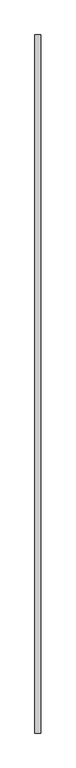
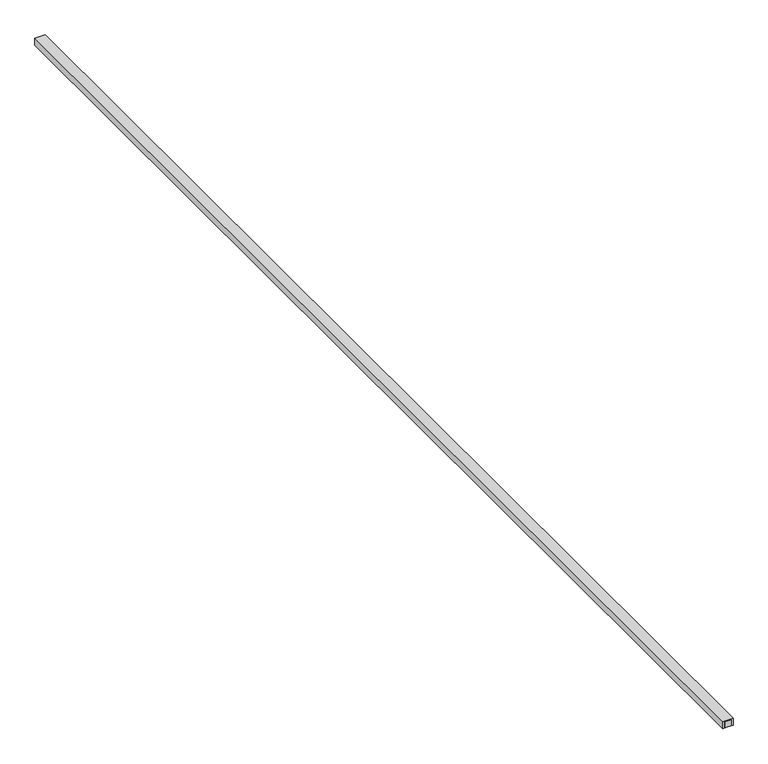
"""IFC4 building model written with IfcOpenShell, lengths in millimetres: proxy geometry, HAFELE^BUS BAR LIGHT_ALUMINUM EXTRUSION-LIGHT BAR (MOD LENGTH 78)."""

from ifc_helpers import new_model, si_unit, frame, origin, origin_with_axes, place, context, project, spatial, polyline, outline, extrude, source, transform, mapped, element, save


def generic_models_cd152bde(model_context):
    return source(origin(), model_context, "Body", "SweptSolid", [
        extrude(outline(polyline([(13.9, 1943.1), (13.9, 38.1), (3.1, 38.1), (3.1, 1943.1), (13.9, 1943.1)])), frame((0.0, 0.0, -0.05), z_axis=(0.0, 0.0, 1.0), x_axis=(1.0, 0.0, 0.0)), (0.0, 0.0, 1.0), 1.05),
        extrude(outline(polyline([(14.0, 0.0), (3.0, 0.0), (3.0, 38.1), (14.0, 38.1), (14.0, 0.0)])), origin_with_axes(), (0.0, 0.0, 1.0), 11.0),
        extrude(outline(polyline([(0.0, 13.0), (0.0, 17.0), (12.0, 17.0), (12.0, 0.0), (0.0, 0.0), (0.0, 4.0), (2.0, 4.0), (2.0, 3.0), (11.0, 3.0), (11.0, 14.0), (2.0, 14.0), (2.0, 13.0), (0.0, 13.0)])), frame((0.0, 0.0, 0.0), z_axis=(0.0, 1.0, 0.0), x_axis=(0.0, 0.0, 1.0)), (0.0, 0.0, 1.0), 1981.2),
        extrude(outline(polyline([(3.0, 1981.2), (14.0, 1981.2), (14.0, 1943.1), (3.0, 1943.1), (3.0, 1981.2)])), origin_with_axes(), (0.0, 0.0, 1.0), 11.0),
    ])


if __name__ == "__main__":
    model = new_model("IFC4")
    model_context = context("Model", 3, world=origin())
    ifc_project = project(units=[si_unit("LENGTHUNIT", "METRE", prefix="MILLI")], contexts=[model_context])
    site = spatial("IfcSite", under=ifc_project)
    building = spatial("IfcBuilding", under=site)
    placement = place(None, origin())
    generic_models_shape = generic_models_cd152bde(model_context)
    element("IfcBuildingElementProxy", 1, Name="HAFELE^BUS BAR LIGHT_ALUMINUM EXTRUSION-LIGHT BAR (MOD LENGTH 78)", ObjectType="HAFELE^BUS BAR LIGHT_ALUMINUM EXTRUSION-LIGHT BAR (MOD LENGTH 78)", at=placement, inside=building, context=model_context, shape_type="MappedRepresentation", body=[
        mapped(generic_models_shape, transform((0.0, 0.0, 0.0), x_axis=(1.0, 0.0, 0.0), y_axis=(0.0, 1.0, 0.0), z_axis=(0.0, 0.0, 1.0))),
    ])
    save(model, "model.ifc")
